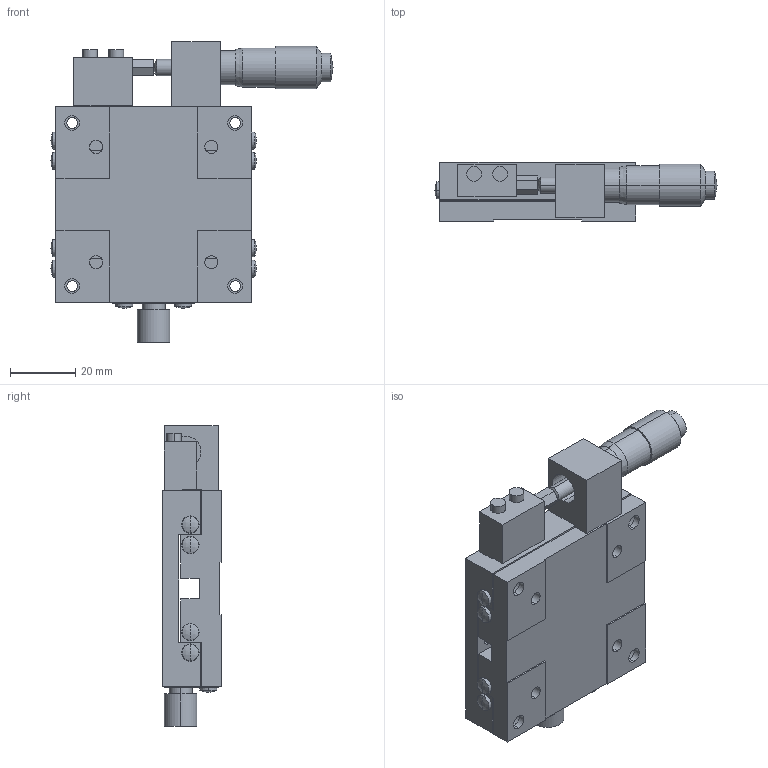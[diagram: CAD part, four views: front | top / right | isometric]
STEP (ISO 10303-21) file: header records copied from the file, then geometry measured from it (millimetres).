
FILE_DESCRIPTION (( 'STEP AP203' ), '1' );
FILE_NAME ('LS-647-S8.STEP', '2008-01-11T06:15:28', ( '' ), ( '' ), 'SwSTEP 2.0', 'SolidWorks 2007', '' );
FILE_SCHEMA (( 'CONFIG_CONTROL_DESIGN' ));
Length unit declared in the file: millimetre
Products named in the file (3): LS-647-S8; LS-647-S8-2_蹬怮椔; LS-647-S8-1_蹬怮椔
Assembly tree (2 placements, depth 2):
  LS-647-S8
    LS-647-S8-1_蹬怮椔
    LS-647-S8-2_蹬怮椔
Bounding box: 86.5 x 18 x 92.3 mm (x, y, z)
Volume: 69012.9 mm3; surface area: 29513.3 mm2
Topology: 3 solids, 3 shells, 219 faces, 539 edges, 352 vertices
Faces by surface type: plane 88, cylinder 85, cone 26, sphere 18, bspline 2
Entity records: 7296 total; most frequent: CARTESIAN_POINT 1523, DIRECTION 1211, ORIENTED_EDGE 1074, EDGE_CURVE 537, AXIS2_PLACEMENT_3D 456, VERTEX_POINT 352, VECTOR 299, LINE 299
